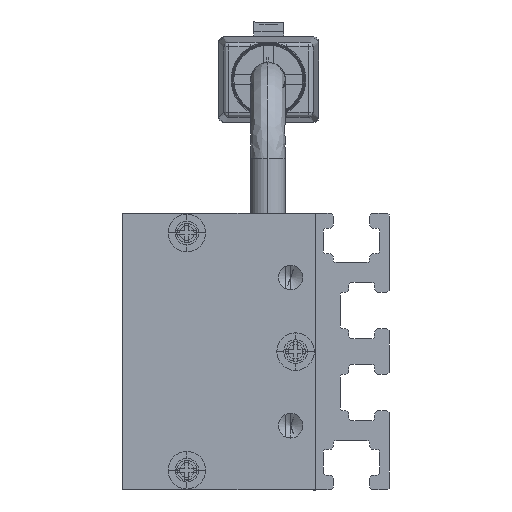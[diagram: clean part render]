
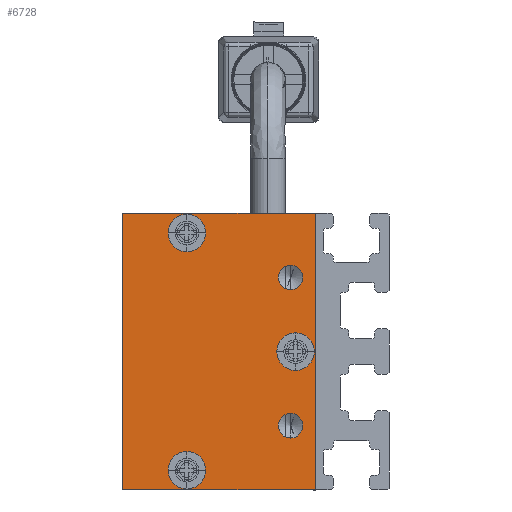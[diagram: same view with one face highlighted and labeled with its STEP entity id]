
A CAD part, left-side view. The second image highlights one B-rep face of the part: STEP entity #6728.
In plain terms, the highlighted planar face has unit normal (-1, 0, 0) as drawn and (0, 0, -1) by its records, which use the part's own axes.
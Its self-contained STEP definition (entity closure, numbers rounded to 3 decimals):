
#174 = EDGE_CURVE ( 'NONE', #13204, #5736, #12836, .T. ) ;
#192 = EDGE_LOOP ( 'NONE', ( #5340, #6441 ) ) ;
#251 = FACE_BOUND ( 'NONE', #7236, .T. ) ;
#301 = CARTESIAN_POINT ( 'NONE',  ( -10.1, 13., -2.5 ) ) ;
#311 = DIRECTION ( 'NONE',  ( -1., 0., 0. ) ) ;
#470 = AXIS2_PLACEMENT_3D ( 'NONE', #6930, #2593, #2525 ) ;
#597 = CARTESIAN_POINT ( 'NONE',  ( 7.5, 2.5, -2.5 ) ) ;
#724 = CARTESIAN_POINT ( 'NONE',  ( -14., 19.5, -2.5 ) ) ;
#750 = CARTESIAN_POINT ( 'NONE',  ( 0., 2., -2.5 ) ) ;
#792 = CIRCLE ( 'NONE', #11016, 1.9 ) ;
#827 = CARTESIAN_POINT ( 'NONE',  ( 14., 19.5, -2.5 ) ) ;
#911 = CIRCLE ( 'NONE', #9082, 1.9 ) ;
#1030 = VECTOR ( 'NONE', #8214, 1000. ) ;
#1035 = PLANE ( 'NONE',  #1871 ) ;
#1069 = VECTOR ( 'NONE', #5230, 1000. ) ;
#1648 = CARTESIAN_POINT ( 'NONE',  ( 8.75, 2.5, -2.5 ) ) ;
#1729 = CARTESIAN_POINT ( 'NONE',  ( -13.9, 13., -2.5 ) ) ;
#1805 = AXIS2_PLACEMENT_3D ( 'NONE', #1941, #12810, #3016 ) ;
#1845 = EDGE_CURVE ( 'NONE', #13054, #7572, #9475, .T. ) ;
#1871 = AXIS2_PLACEMENT_3D ( 'NONE', #12971, #13529, #10147 ) ;
#1941 = CARTESIAN_POINT ( 'NONE',  ( -7.5, 2.5, -2.5 ) ) ;
#2379 = EDGE_CURVE ( 'NONE', #13994, #7193, #10177, .T. ) ;
#2396 = ORIENTED_EDGE ( 'NONE', *, *, #174, .F. ) ;
#2431 = CIRCLE ( 'NONE', #10379, 1.25 ) ;
#2436 = CARTESIAN_POINT ( 'NONE',  ( -1.9, 2., -2.5 ) ) ;
#2467 = DIRECTION ( 'NONE',  ( -1., 0., 0. ) ) ;
#2525 = DIRECTION ( 'NONE',  ( -1., 0., 0. ) ) ;
#2589 = ORIENTED_EDGE ( 'NONE', *, *, #11135, .F. ) ;
#2593 = DIRECTION ( 'NONE',  ( 0., 0., -1. ) ) ;
#2674 = EDGE_CURVE ( 'NONE', #2815, #13204, #7337, .T. ) ;
#2787 = EDGE_LOOP ( 'NONE', ( #9378, #6520 ) ) ;
#2815 = VERTEX_POINT ( 'NONE', #724 ) ;
#3016 = DIRECTION ( 'NONE',  ( -1., 0., 0. ) ) ;
#3151 = VERTEX_POINT ( 'NONE', #2436 ) ;
#3523 = EDGE_LOOP ( 'NONE', ( #12562, #12839 ) ) ;
#3553 = LINE ( 'NONE', #6618, #1030 ) ;
#3855 = CIRCLE ( 'NONE', #1805, 1.25 ) ;
#3960 = ORIENTED_EDGE ( 'NONE', *, *, #4847, .F. ) ;
#4804 = CIRCLE ( 'NONE', #470, 1.25 ) ;
#4847 = EDGE_CURVE ( 'NONE', #3151, #12324, #13571, .T. ) ;
#5064 = DIRECTION ( 'NONE',  ( -1., 0., 0. ) ) ;
#5095 = DIRECTION ( 'NONE',  ( -1., 0., 0. ) ) ;
#5230 = DIRECTION ( 'NONE',  ( 0., -1., 0. ) ) ;
#5271 = VERTEX_POINT ( 'NONE', #8187 ) ;
#5340 = ORIENTED_EDGE ( 'NONE', *, *, #13849, .F. ) ;
#5382 = EDGE_CURVE ( 'NONE', #6306, #5271, #3855, .T. ) ;
#5385 = CARTESIAN_POINT ( 'NONE',  ( 13.9, 13., -2.5 ) ) ;
#5505 = DIRECTION ( 'NONE',  ( 0., 0., -1. ) ) ;
#5524 = EDGE_CURVE ( 'NONE', #12324, #3151, #911, .T. ) ;
#5663 = DIRECTION ( 'NONE',  ( 0., 0., -1. ) ) ;
#5688 = DIRECTION ( 'NONE',  ( -1., 0., 0. ) ) ;
#5712 = CARTESIAN_POINT ( 'NONE',  ( 0., 2., -2.5 ) ) ;
#5719 = CARTESIAN_POINT ( 'NONE',  ( 12., 13., -2.5 ) ) ;
#5736 = VERTEX_POINT ( 'NONE', #7466 ) ;
#6241 = VECTOR ( 'NONE', #5688, 1000. ) ;
#6306 = VERTEX_POINT ( 'NONE', #10430 ) ;
#6441 = ORIENTED_EDGE ( 'NONE', *, *, #5382, .F. ) ;
#6516 = CARTESIAN_POINT ( 'NONE',  ( 10.1, 13., -2.5 ) ) ;
#6520 = ORIENTED_EDGE ( 'NONE', *, *, #7314, .F. ) ;
#6618 = CARTESIAN_POINT ( 'NONE',  ( 14., 19.5, -2.5 ) ) ;
#6728 = ADVANCED_FACE ( 'NONE', ( #8700, #10854, #251, #10994, #7847, #9794 ), #1035, .T. ) ;
#6757 = ORIENTED_EDGE ( 'NONE', *, *, #2674, .F. ) ;
#6930 = CARTESIAN_POINT ( 'NONE',  ( -7.5, 2.5, -2.5 ) ) ;
#7035 = CARTESIAN_POINT ( 'NONE',  ( 1.9, 2., -2.5 ) ) ;
#7158 = DIRECTION ( 'NONE',  ( 1., 0., 0. ) ) ;
#7193 = VERTEX_POINT ( 'NONE', #301 ) ;
#7236 = EDGE_LOOP ( 'NONE', ( #3960, #10012 ) ) ;
#7314 = EDGE_CURVE ( 'NONE', #7193, #13994, #792, .T. ) ;
#7337 = LINE ( 'NONE', #11684, #1069 ) ;
#7392 = DIRECTION ( 'NONE',  ( -1., 0., 0. ) ) ;
#7466 = CARTESIAN_POINT ( 'NONE',  ( 14., 0., -2.5 ) ) ;
#7572 = VERTEX_POINT ( 'NONE', #5385 ) ;
#7592 = VERTEX_POINT ( 'NONE', #827 ) ;
#7697 = CARTESIAN_POINT ( 'NONE',  ( 12., 13., -2.5 ) ) ;
#7802 = VERTEX_POINT ( 'NONE', #8057 ) ;
#7845 = DIRECTION ( 'NONE',  ( -1., 0., 0. ) ) ;
#7847 = FACE_BOUND ( 'NONE', #192, .T. ) ;
#7881 = LINE ( 'NONE', #8878, #6241 ) ;
#7963 = AXIS2_PLACEMENT_3D ( 'NONE', #597, #9269, #7845 ) ;
#8057 = CARTESIAN_POINT ( 'NONE',  ( 6.25, 2.5, -2.5 ) ) ;
#8180 = EDGE_CURVE ( 'NONE', #7572, #13054, #9197, .T. ) ;
#8187 = CARTESIAN_POINT ( 'NONE',  ( -8.75, 2.5, -2.5 ) ) ;
#8214 = DIRECTION ( 'NONE',  ( 0., 1., 0. ) ) ;
#8236 = DIRECTION ( 'NONE',  ( 0., 0., -1. ) ) ;
#8700 = FACE_BOUND ( 'NONE', #9174, .T. ) ;
#8878 = CARTESIAN_POINT ( 'NONE',  ( -14., 19.5, -2.5 ) ) ;
#8992 = CARTESIAN_POINT ( 'NONE',  ( -14., 0., -2.5 ) ) ;
#9027 = AXIS2_PLACEMENT_3D ( 'NONE', #7697, #5505, #9851 ) ;
#9082 = AXIS2_PLACEMENT_3D ( 'NONE', #5712, #8236, #5064 ) ;
#9174 = EDGE_LOOP ( 'NONE', ( #10736, #12159 ) ) ;
#9197 = CIRCLE ( 'NONE', #13957, 1.9 ) ;
#9269 = DIRECTION ( 'NONE',  ( 0., 0., -1. ) ) ;
#9276 = EDGE_CURVE ( 'NONE', #11662, #7802, #2431, .T. ) ;
#9322 = CARTESIAN_POINT ( 'NONE',  ( -12., 13., -2.5 ) ) ;
#9378 = ORIENTED_EDGE ( 'NONE', *, *, #2379, .F. ) ;
#9433 = EDGE_LOOP ( 'NONE', ( #2589, #2396, #6757, #13120 ) ) ;
#9475 = CIRCLE ( 'NONE', #9027, 1.9 ) ;
#9574 = VECTOR ( 'NONE', #7158, 1000. ) ;
#9794 = FACE_OUTER_BOUND ( 'NONE', #9433, .T. ) ;
#9851 = DIRECTION ( 'NONE',  ( -1., 0., 0. ) ) ;
#10012 = ORIENTED_EDGE ( 'NONE', *, *, #5524, .F. ) ;
#10066 = DIRECTION ( 'NONE',  ( 0., 0., -1. ) ) ;
#10147 = DIRECTION ( 'NONE',  ( -1., 0., 0. ) ) ;
#10177 = CIRCLE ( 'NONE', #11984, 1.9 ) ;
#10379 = AXIS2_PLACEMENT_3D ( 'NONE', #12074, #11158, #13345 ) ;
#10430 = CARTESIAN_POINT ( 'NONE',  ( -6.25, 2.5, -2.5 ) ) ;
#10432 = DIRECTION ( 'NONE',  ( 0., 0., -1. ) ) ;
#10510 = CARTESIAN_POINT ( 'NONE',  ( 14., 0., -2.5 ) ) ;
#10537 = DIRECTION ( 'NONE',  ( 0., 0., -1. ) ) ;
#10646 = AXIS2_PLACEMENT_3D ( 'NONE', #750, #10432, #5095 ) ;
#10736 = ORIENTED_EDGE ( 'NONE', *, *, #1845, .F. ) ;
#10854 = FACE_BOUND ( 'NONE', #2787, .T. ) ;
#10994 = FACE_BOUND ( 'NONE', #3523, .T. ) ;
#11016 = AXIS2_PLACEMENT_3D ( 'NONE', #9322, #10537, #7392 ) ;
#11054 = EDGE_CURVE ( 'NONE', #7592, #2815, #7881, .T. ) ;
#11135 = EDGE_CURVE ( 'NONE', #5736, #7592, #3553, .T. ) ;
#11158 = DIRECTION ( 'NONE',  ( 0., 0., -1. ) ) ;
#11662 = VERTEX_POINT ( 'NONE', #1648 ) ;
#11684 = CARTESIAN_POINT ( 'NONE',  ( -14., 0., -2.5 ) ) ;
#11828 = CIRCLE ( 'NONE', #7963, 1.25 ) ;
#11984 = AXIS2_PLACEMENT_3D ( 'NONE', #13254, #5663, #2467 ) ;
#12074 = CARTESIAN_POINT ( 'NONE',  ( 7.5, 2.5, -2.5 ) ) ;
#12159 = ORIENTED_EDGE ( 'NONE', *, *, #8180, .F. ) ;
#12324 = VERTEX_POINT ( 'NONE', #7035 ) ;
#12562 = ORIENTED_EDGE ( 'NONE', *, *, #13911, .F. ) ;
#12810 = DIRECTION ( 'NONE',  ( 0., 0., -1. ) ) ;
#12836 = LINE ( 'NONE', #10510, #9574 ) ;
#12839 = ORIENTED_EDGE ( 'NONE', *, *, #9276, .F. ) ;
#12971 = CARTESIAN_POINT ( 'NONE',  ( 0., 0., -2.5 ) ) ;
#13054 = VERTEX_POINT ( 'NONE', #6516 ) ;
#13120 = ORIENTED_EDGE ( 'NONE', *, *, #11054, .F. ) ;
#13204 = VERTEX_POINT ( 'NONE', #8992 ) ;
#13254 = CARTESIAN_POINT ( 'NONE',  ( -12., 13., -2.5 ) ) ;
#13345 = DIRECTION ( 'NONE',  ( -1., 0., 0. ) ) ;
#13529 = DIRECTION ( 'NONE',  ( 0., 0., -1. ) ) ;
#13571 = CIRCLE ( 'NONE', #10646, 1.9 ) ;
#13849 = EDGE_CURVE ( 'NONE', #5271, #6306, #4804, .T. ) ;
#13911 = EDGE_CURVE ( 'NONE', #7802, #11662, #11828, .T. ) ;
#13957 = AXIS2_PLACEMENT_3D ( 'NONE', #5719, #10066, #311 ) ;
#13994 = VERTEX_POINT ( 'NONE', #1729 ) ;
